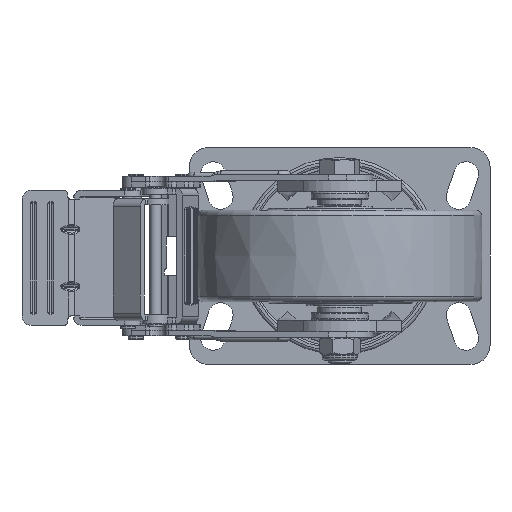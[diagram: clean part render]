
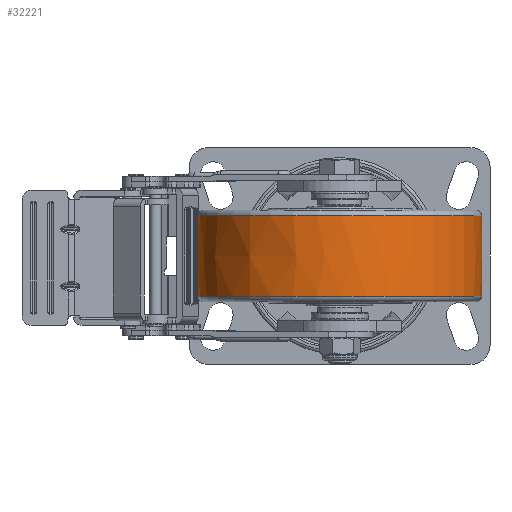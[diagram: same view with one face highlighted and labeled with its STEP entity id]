
A CAD part, front view. The second image highlights one B-rep face of the part: STEP entity #32221.
In plain terms, the highlighted free-form (B-spline) face has degree [2, 2] with [3, 9] control points.
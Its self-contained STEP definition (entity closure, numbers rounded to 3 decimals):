
#29=(
BOUNDED_SURFACE()
B_SPLINE_SURFACE(2,2,((#54583,#54584,#54585,#54586,#54587,#54588,#54589,
#54590,#54591),(#54592,#54593,#54594,#54595,#54596,#54597,#54598,#54599,
#54600),(#54601,#54602,#54603,#54604,#54605,#54606,#54607,#54608,#54609)),
 .UNSPECIFIED.,.F.,.T.,.F.)
B_SPLINE_SURFACE_WITH_KNOTS((3,3),(3,2,2,2,3),(-0.03,0.03),
(-3.142,-1.571,0.,1.571,3.142),
 .UNSPECIFIED.)
GEOMETRIC_REPRESENTATION_ITEM()
RATIONAL_B_SPLINE_SURFACE(((1.,0.707,1.,0.707,1.,
0.707,1.,0.707,1.),(1.,0.707,
1.,0.707,1.,0.707,1.,
0.707,1.),(1.,0.707,1.,0.707,
1.,0.707,1.,0.707,1.)))
REPRESENTATION_ITEM('')
SURFACE()
);
#62=(
BOUNDED_CURVE()
B_SPLINE_CURVE(2,(#54614,#54615,#54616),.UNSPECIFIED.,.F.,.F.)
B_SPLINE_CURVE_WITH_KNOTS((3,3),(-0.03,0.03),
 .UNSPECIFIED.)
CURVE()
GEOMETRIC_REPRESENTATION_ITEM()
RATIONAL_B_SPLINE_CURVE((1.,1.,1.))
REPRESENTATION_ITEM('')
);
#9335=FACE_OUTER_BOUND('',#11203,.T.);
#11203=EDGE_LOOP('',(#27737,#27738,#27739,#27740,#27741,#27742));
#11971=CIRCLE('',#34663,74.682);
#11972=CIRCLE('',#34664,74.682);
#11974=CIRCLE('',#34666,74.682);
#11975=CIRCLE('',#34667,74.682);
#14813=VERTEX_POINT('',#54577);
#14814=VERTEX_POINT('',#54578);
#14816=VERTEX_POINT('',#54610);
#14817=VERTEX_POINT('',#54611);
#19129=EDGE_CURVE('',#14813,#14814,#11971,.T.);
#19130=EDGE_CURVE('',#14814,#14813,#11972,.T.);
#19132=EDGE_CURVE('',#14816,#14817,#11974,.T.);
#19133=EDGE_CURVE('',#14817,#14816,#11975,.T.);
#19134=EDGE_CURVE('',#14817,#14814,#62,.T.);
#27737=ORIENTED_EDGE('',*,*,#19132,.F.);
#27738=ORIENTED_EDGE('',*,*,#19133,.F.);
#27739=ORIENTED_EDGE('',*,*,#19134,.T.);
#27740=ORIENTED_EDGE('',*,*,#19130,.T.);
#27741=ORIENTED_EDGE('',*,*,#19129,.T.);
#27742=ORIENTED_EDGE('',*,*,#19134,.F.);
#32221=ADVANCED_FACE('',(#9335),#29,.F.);
#34663=AXIS2_PLACEMENT_3D('',#54579,#42847,#42848);
#34664=AXIS2_PLACEMENT_3D('',#54580,#42849,#42850);
#34666=AXIS2_PLACEMENT_3D('',#54612,#42853,#42854);
#34667=AXIS2_PLACEMENT_3D('',#54613,#42855,#42856);
#42847=DIRECTION('center_axis',(0.,0.,
1.));
#42848=DIRECTION('ref_axis',(-0.775,0.632,0.));
#42849=DIRECTION('center_axis',(0.,0.,
1.));
#42850=DIRECTION('ref_axis',(-0.775,0.632,0.));
#42853=DIRECTION('center_axis',(0.,0.,
1.));
#42854=DIRECTION('ref_axis',(-0.775,0.632,0.));
#42855=DIRECTION('center_axis',(0.,0.,
1.));
#42856=DIRECTION('ref_axis',(-0.775,0.632,0.));
#54577=CARTESIAN_POINT('',(-56.53,-164.533,-21.09));
#54578=CARTESIAN_POINT('',(48.539,-153.797,-21.09));
#54579=CARTESIAN_POINT('Origin',(-9.363,-106.63,-21.09));
#54580=CARTESIAN_POINT('Origin',(-9.363,-106.63,-21.09));
#54583=CARTESIAN_POINT('Ctrl Pts',(48.539,-153.797,-21.09));
#54584=CARTESIAN_POINT('Ctrl Pts',(95.706,-95.894,-21.09));
#54585=CARTESIAN_POINT('Ctrl Pts',(37.803,-48.728,-21.09));
#54586=CARTESIAN_POINT('Ctrl Pts',(-20.099,-1.561,
-21.09));
#54587=CARTESIAN_POINT('Ctrl Pts',(-67.266,-59.464,
-21.09));
#54588=CARTESIAN_POINT('Ctrl Pts',(-114.433,-117.366,
-21.09));
#54589=CARTESIAN_POINT('Ctrl Pts',(-56.53,-164.533,
-21.09));
#54590=CARTESIAN_POINT('Ctrl Pts',(1.373,-211.7,-21.09));
#54591=CARTESIAN_POINT('Ctrl Pts',(48.539,-153.797,-21.09));
#54592=CARTESIAN_POINT('Ctrl Pts',(49.032,-154.199,0.));
#54593=CARTESIAN_POINT('Ctrl Pts',(96.601,-95.803,0.));
#54594=CARTESIAN_POINT('Ctrl Pts',(38.205,-48.235,0.));
#54595=CARTESIAN_POINT('Ctrl Pts',(-20.191,-0.667,
0.));
#54596=CARTESIAN_POINT('Ctrl Pts',(-67.759,-59.062,
0.));
#54597=CARTESIAN_POINT('Ctrl Pts',(-115.327,-117.458,
0.));
#54598=CARTESIAN_POINT('Ctrl Pts',(-56.932,-165.026,
0.));
#54599=CARTESIAN_POINT('Ctrl Pts',(1.464,-212.594,0.));
#54600=CARTESIAN_POINT('Ctrl Pts',(49.032,-154.199,0.));
#54601=CARTESIAN_POINT('Ctrl Pts',(48.539,-153.797,21.09));
#54602=CARTESIAN_POINT('Ctrl Pts',(95.706,-95.894,21.09));
#54603=CARTESIAN_POINT('Ctrl Pts',(37.803,-48.728,21.09));
#54604=CARTESIAN_POINT('Ctrl Pts',(-20.099,-1.561,21.09));
#54605=CARTESIAN_POINT('Ctrl Pts',(-67.266,-59.464,
21.09));
#54606=CARTESIAN_POINT('Ctrl Pts',(-114.433,-117.366,
21.09));
#54607=CARTESIAN_POINT('Ctrl Pts',(-56.53,-164.533,
21.09));
#54608=CARTESIAN_POINT('Ctrl Pts',(1.373,-211.7,21.09));
#54609=CARTESIAN_POINT('Ctrl Pts',(48.539,-153.797,21.09));
#54610=CARTESIAN_POINT('',(-56.53,-164.533,21.09));
#54611=CARTESIAN_POINT('',(48.539,-153.797,21.09));
#54612=CARTESIAN_POINT('Origin',(-9.363,-106.63,21.09));
#54613=CARTESIAN_POINT('Origin',(-9.363,-106.63,21.09));
#54614=CARTESIAN_POINT('Ctrl Pts',(48.539,-153.797,21.09));
#54615=CARTESIAN_POINT('Ctrl Pts',(49.032,-154.199,0.));
#54616=CARTESIAN_POINT('Ctrl Pts',(48.539,-153.797,-21.09));
